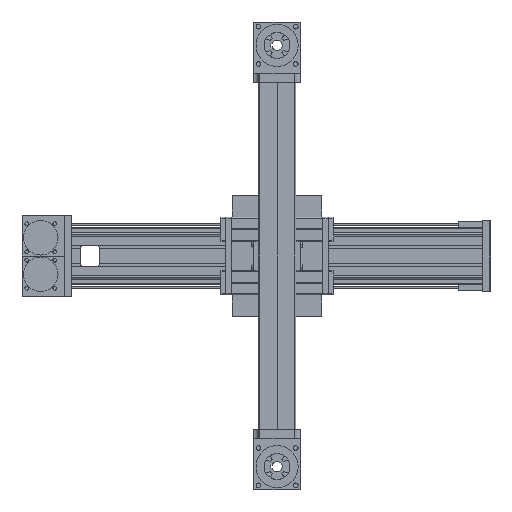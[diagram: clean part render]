
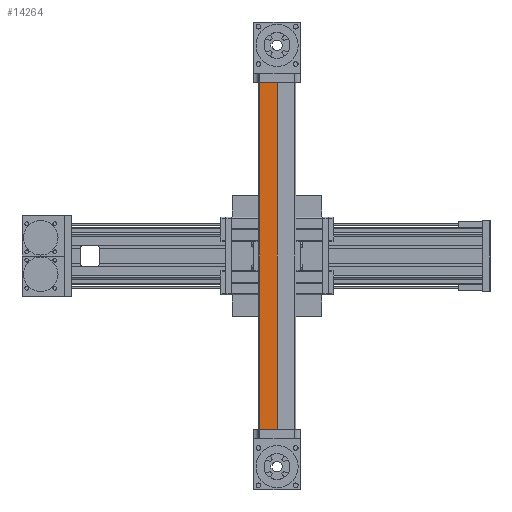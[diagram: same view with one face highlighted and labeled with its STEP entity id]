
A CAD part, left-side view. The second image highlights one B-rep face of the part: STEP entity #14264.
In plain terms, the highlighted planar face has unit normal (-1, 0, 0) as drawn and (0, 0, -1) by its records, which use the part's own axes.
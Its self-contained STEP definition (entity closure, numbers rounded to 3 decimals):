
#1654 = DIRECTION ( 'NONE',  ( 0., 0., -1. ) ) ;
#2054 = CARTESIAN_POINT ( 'NONE',  ( 370., -0.05, -144. ) ) ;
#2922 = CARTESIAN_POINT ( 'NONE',  ( 370., 0., -144. ) ) ;
#4397 = DIRECTION ( 'NONE',  ( 0., -1., 0. ) ) ;
#5530 = LINE ( 'NONE', #2054, #24237 ) ;
#7665 = ORIENTED_EDGE ( 'NONE', *, *, #27837, .T. ) ;
#9634 = VERTEX_POINT ( 'NONE', #12362 ) ;
#10669 = CARTESIAN_POINT ( 'NONE',  ( 370., -0.05, -144. ) ) ;
#11940 = DIRECTION ( 'NONE',  ( -1., 0., 0. ) ) ;
#12362 = CARTESIAN_POINT ( 'NONE',  ( -370., -0.05, -144. ) ) ;
#13384 = VERTEX_POINT ( 'NONE', #38929 ) ;
#14264 = ADVANCED_FACE ( 'NONE', ( #34592 ), #44833, .T. ) ;
#15335 = EDGE_CURVE ( 'NONE', #9634, #13384, #39588, .T. ) ;
#15686 = VECTOR ( 'NONE', #17927, 1000. ) ;
#17681 = VERTEX_POINT ( 'NONE', #32045 ) ;
#17927 = DIRECTION ( 'NONE',  ( -1., 0., 0. ) ) ;
#18148 = LINE ( 'NONE', #35537, #15686 ) ;
#20556 = AXIS2_PLACEMENT_3D ( 'NONE', #2922, #1654, #29830 ) ;
#21294 = VECTOR ( 'NONE', #4397, 1000. ) ;
#24237 = VECTOR ( 'NONE', #11940, 1000. ) ;
#27837 = EDGE_CURVE ( 'NONE', #17681, #13384, #18148, .T. ) ;
#28685 = VERTEX_POINT ( 'NONE', #10669 ) ;
#29830 = DIRECTION ( 'NONE',  ( -1., 0., 0. ) ) ;
#30567 = EDGE_CURVE ( 'NONE', #28685, #17681, #43285, .T. ) ;
#32033 = ORIENTED_EDGE ( 'NONE', *, *, #30567, .T. ) ;
#32045 = CARTESIAN_POINT ( 'NONE',  ( 370., -37., -144. ) ) ;
#34592 = FACE_OUTER_BOUND ( 'NONE', #44081, .T. ) ;
#34630 = VECTOR ( 'NONE', #42385, 1000. ) ;
#35140 = CARTESIAN_POINT ( 'NONE',  ( 370., 0., -144. ) ) ;
#35537 = CARTESIAN_POINT ( 'NONE',  ( 370., -37., -144. ) ) ;
#36094 = CARTESIAN_POINT ( 'NONE',  ( -370., 0., -144. ) ) ;
#37228 = ORIENTED_EDGE ( 'NONE', *, *, #15335, .F. ) ;
#37379 = ORIENTED_EDGE ( 'NONE', *, *, #39807, .F. ) ;
#38929 = CARTESIAN_POINT ( 'NONE',  ( -370., -37., -144. ) ) ;
#39588 = LINE ( 'NONE', #36094, #21294 ) ;
#39807 = EDGE_CURVE ( 'NONE', #28685, #9634, #5530, .T. ) ;
#42385 = DIRECTION ( 'NONE',  ( 0., -1., 0. ) ) ;
#43285 = LINE ( 'NONE', #35140, #34630 ) ;
#44081 = EDGE_LOOP ( 'NONE', ( #37228, #37379, #32033, #7665 ) ) ;
#44833 = PLANE ( 'NONE',  #20556 ) ;
